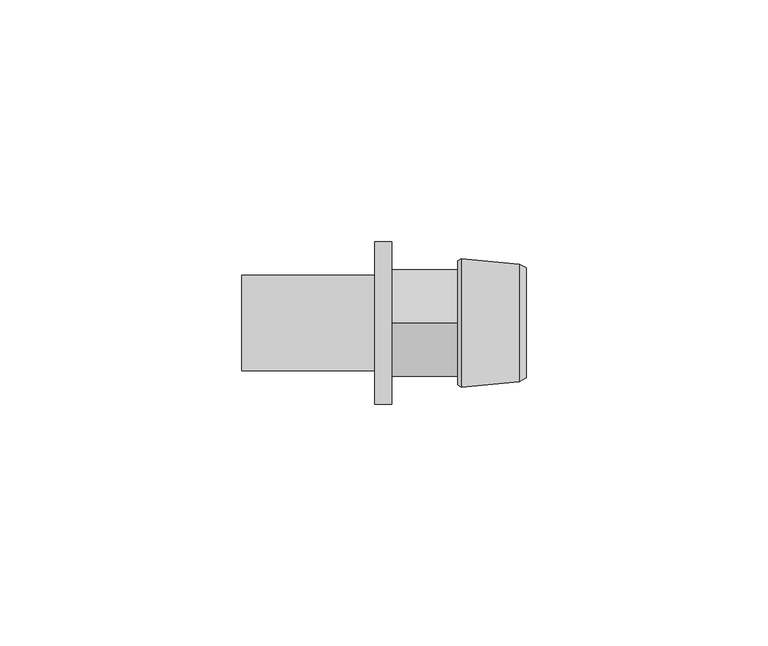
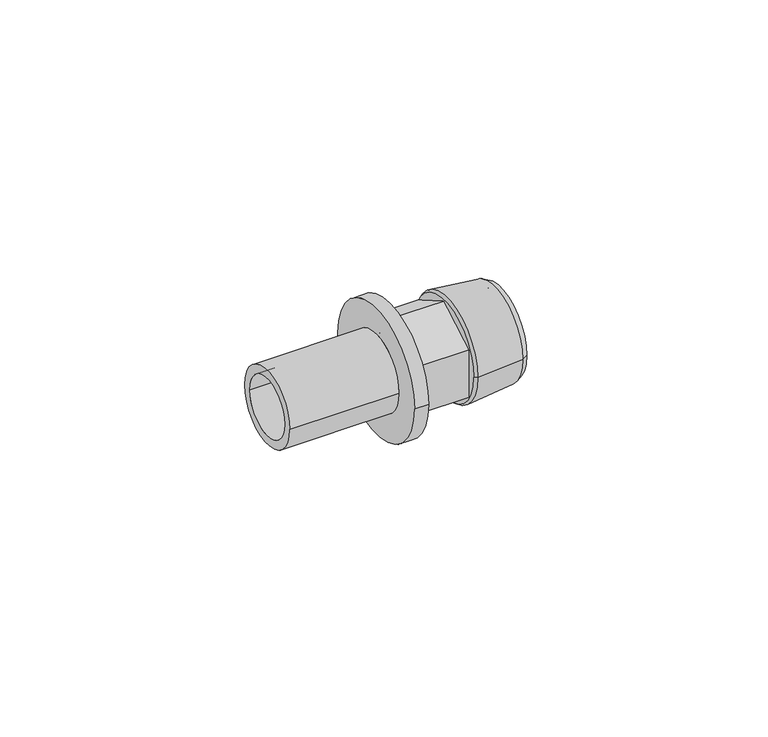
"""IFC4 building model written with IfcOpenShell, lengths in millimetres: pipe fitting geometry, RAUTITAN_Adapter_external_thread LX+G_LX : RTI A external LX+G_LX DE."""

from ifc_helpers import new_model, si_unit, frame, origin, place, context, project, spatial, polyline, circle_curve, outline, extrude, source, transform, mapped, element, save
from ifc_brep_helpers import plane_surface, cylinder_surface, revolved_surface, advanced_brep


def pipe_fitting_b5638b35(model_context):
    return source(origin(), model_context, "Body", "SolidModel", [
        advanced_brep(
        [(-3.54, 9.875, 0.0), (-3.54, -9.875, 0.0), (-31.03, -9.875, 0.0), (-31.03, 9.875, 0.0), (0.0, 16.8, 0.0), (0.0, -16.8, 0.0), (-3.54, -16.8, 0.0), (-3.54, 16.8, 0.0), (-31.03, 7.6, 0.0), (-31.03, -7.6, 0.0), (0.0, -7.6, 0.0), (0.0, 7.6, 0.0)],
        [
            (0, 1, circle_curve(frame((-3.54, 0.0, 0.0), z_axis=(-1.0, 0.0, 0.0), x_axis=(0.0, -1.0, 0.0)), 9.875)),
            (1, 2),
            (2, 3, circle_curve(frame((-31.03, 0.0, 0.0), z_axis=(1.0, 0.0, 0.0), x_axis=(0.0, -1.0, 0.0)), 9.875)),
            (3, 0),
            (4, 5, circle_curve(frame((0.0, 0.0, 0.0), z_axis=(-1.0, 0.0, 0.0), x_axis=(0.0, -1.0, 0.0)), 16.8)),
            (5, 6),
            (6, 7, circle_curve(frame((-3.54, 0.0, 0.0), z_axis=(1.0, 0.0, 0.0), x_axis=(0.0, -1.0, 0.0)), 16.8)),
            (7, 4),
            (8, 9, circle_curve(frame((-31.03, 0.0, 0.0), z_axis=(-1.0, 0.0, 0.0), x_axis=(0.0, -1.0, 0.0)), 7.6)),
            (9, 10),
            (10, 11, circle_curve(frame((0.0, 0.0, 0.0), z_axis=(1.0, 0.0, 0.0), x_axis=(0.0, -1.0, 0.0)), 7.6)),
            (11, 8),
            (2, 3, circle_curve(frame((-31.03, 0.0, 0.0), z_axis=(-1.0, 0.0, 0.0), x_axis=(0.0, 1.0, 0.0)), 9.875)),
            (8, 9, circle_curve(frame((-31.03, 0.0, 0.0), z_axis=(1.0, 0.0, 0.0), x_axis=(0.0, 1.0, 0.0)), 7.6)),
            (1, 0, circle_curve(frame((-3.54, 0.0, 0.0), z_axis=(-1.0, 0.0, 0.0), x_axis=(0.0, 1.0, 0.0)), 9.875)),
            (6, 7, circle_curve(frame((-3.54, 0.0, 0.0), z_axis=(-1.0, 0.0, 0.0), x_axis=(0.0, 1.0, 0.0)), 16.8)),
            (5, 4, circle_curve(frame((0.0, 0.0, 0.0), z_axis=(-1.0, 0.0, 0.0), x_axis=(0.0, 1.0, 0.0)), 16.8)),
            (10, 11, circle_curve(frame((0.0, 0.0, 0.0), z_axis=(-1.0, 0.0, 0.0), x_axis=(0.0, 1.0, 0.0)), 7.6)),
        ],
        [
            cylinder_surface(frame((0.0, 0.0, 0.0), z_axis=(1.0, 0.0, 0.0), x_axis=(0.0, -1.0, 0.0)), 9.875),
            cylinder_surface(frame((0.0, 0.0, 0.0), z_axis=(1.0, 0.0, 0.0), x_axis=(0.0, -1.0, 0.0)), 16.8),
            revolved_surface(polyline([(0.0, -7.6, 0.0), (-31.03, -7.6, 0.0)]), (0.0, 0.0, 0.0), (1.0, 0.0, 0.0)),
            plane_surface(frame((-31.03, 0.0, 0.0), z_axis=(-1.0, 0.0, 0.0), x_axis=(0.0, 1.0, 0.0))),
            cylinder_surface(frame((0.0, 0.0, 0.0), z_axis=(1.0, 0.0, 0.0), x_axis=(0.0, 1.0, 0.0)), 9.875),
            plane_surface(frame((-3.54, 0.0, 0.0), z_axis=(-1.0, 0.0, 0.0), x_axis=(0.0, 1.0, 0.0))),
            cylinder_surface(frame((0.0, 0.0, 0.0), z_axis=(1.0, 0.0, 0.0), x_axis=(0.0, 1.0, 0.0)), 16.8),
            plane_surface(frame((0.0, 0.0, 0.0), z_axis=(1.0, 0.0, 0.0), x_axis=(0.0, 1.0, 0.0))),
            revolved_surface(polyline([(0.0, 7.6, 0.0), (-31.03, 7.6, 0.0)]), (0.0, 0.0, 0.0), (1.0, 0.0, 0.0)),
        ],
        [
            (0, [[1, 2, 3, 4]]),
            (1, [[5, 6, 7, 8]]),
            (2, [[9, 10, 11, 12]]),
            (3, [[13, -3], [14, -9]]),
            (4, [[15, -4, -13, -2]]),
            (5, [[16, -7], [-15, -1]]),
            (6, [[17, -8, -16, -6]]),
            (7, [[-17, -5], [18, -11]]),
            (8, [[-14, -12, -18, -10]]),
        ],
    ),
        advanced_brep(
        [(14.7832803, 9.5, 0.0), (14.7832803, -9.5, 0.0), (27.88, -9.5, 0.0), (27.88, 9.5, 0.0), (13.68, 8.3967197, 0.0), (13.68, -8.3967197, 0.0), (14.4206902, 13.29, 0.0), (14.4206902, -13.29, 0.0), (13.68, -12.85, 0.0), (13.68, 12.85, 0.0), (26.3800007, 12.16, 0.0), (26.3800007, -12.16, 0.0), (27.88, 11.375, 0.0), (27.88, -11.375, 0.0)],
        [
            (0, 1, circle_curve(frame((14.7832803, 0.0, 0.0), z_axis=(-1.0, 0.0, 0.0), x_axis=(0.0, -1.0, 0.0)), 9.5)),
            (1, 2),
            (2, 3, circle_curve(frame((27.88, 0.0, 0.0), z_axis=(1.0, 0.0, 0.0), x_axis=(0.0, -1.0, 0.0)), 9.5)),
            (3, 0),
            (4, 5, circle_curve(frame((13.68, 0.0, 0.0), z_axis=(-1.0, 0.0, 0.0), x_axis=(0.0, -1.0, 0.0)), 8.3967197)),
            (5, 1),
            (0, 4),
            (6, 7, circle_curve(frame((14.4206902, 0.0, 0.0), z_axis=(-1.0, 0.0, 0.0), x_axis=(0.0, -1.0, 0.0)), 13.29)),
            (7, 8),
            (8, 9, circle_curve(frame((13.68, 0.0, 0.0), z_axis=(1.0, 0.0, 0.0), x_axis=(0.0, -1.0, 0.0)), 12.85)),
            (9, 6),
            (10, 11, circle_curve(frame((26.3800007, 0.0, 0.0), z_axis=(-1.0, 0.0, 0.0), x_axis=(0.0, -1.0, 0.0)), 12.16)),
            (11, 7),
            (6, 10),
            (12, 13, circle_curve(frame((27.88, 0.0, 0.0), z_axis=(-1.0, 0.0, 0.0), x_axis=(0.0, -1.0, 0.0)), 11.375)),
            (13, 11),
            (10, 12),
            (1, 0, circle_curve(frame((14.7832803, 0.0, 0.0), z_axis=(-1.0, 0.0, 0.0), x_axis=(0.0, 1.0, 0.0)), 9.5)),
            (3, 2, circle_curve(frame((27.88, 0.0, 0.0), z_axis=(1.0, 0.0, 0.0), x_axis=(0.0, 1.0, 0.0)), 9.5)),
            (5, 4, circle_curve(frame((13.68, 0.0, 0.0), z_axis=(-1.0, 0.0, 0.0), x_axis=(0.0, 1.0, 0.0)), 8.3967197)),
            (8, 9, circle_curve(frame((13.68, 0.0, 0.0), z_axis=(-1.0, 0.0, 0.0), x_axis=(0.0, 1.0, 0.0)), 12.85)),
            (7, 6, circle_curve(frame((14.4206902, 0.0, 0.0), z_axis=(-1.0, 0.0, 0.0), x_axis=(0.0, 1.0, 0.0)), 13.29)),
            (11, 10, circle_curve(frame((26.3800007, 0.0, 0.0), z_axis=(-1.0, 0.0, 0.0), x_axis=(0.0, 1.0, 0.0)), 12.16)),
            (13, 12, circle_curve(frame((27.88, 0.0, 0.0), z_axis=(-1.0, 0.0, 0.0), x_axis=(0.0, 1.0, 0.0)), 11.375)),
        ],
        [
            revolved_surface(polyline([(27.88, -9.5, 0.0), (14.7832803, -9.5, 0.0)]), (0.0, 0.0, 0.0), (1.0, 0.0, 0.0)),
            revolved_surface(polyline([(14.7832803, -9.5, 0.0), (13.68, -8.3967197, 0.0)]), (0.0, 0.0, 0.0), (1.0, 0.0, 0.0)),
            revolved_surface(polyline([(13.68, -12.85, 0.0), (14.4206902, -13.29, 0.0)]), (0.0, 0.0, 0.0), (1.0, 0.0, 0.0)),
            revolved_surface(polyline([(14.4206902, -13.29, 0.0), (26.3800007, -12.16, 0.0)]), (0.0, 0.0, 0.0), (1.0, 0.0, 0.0)),
            revolved_surface(polyline([(26.3800007, -12.16, 0.0), (27.88, -11.375, 0.0)]), (0.0, 0.0, 0.0), (1.0, 0.0, 0.0)),
            revolved_surface(polyline([(27.88, 9.5, 0.0), (14.7832803, 9.5, 0.0)]), (0.0, 0.0, 0.0), (1.0, 0.0, 0.0)),
            revolved_surface(polyline([(14.7832803, 9.5, 0.0), (13.68, 8.3967197, 0.0)]), (0.0, 0.0, 0.0), (1.0, 0.0, 0.0)),
            plane_surface(frame((13.68, 0.0, 0.0), z_axis=(-1.0, 0.0, 0.0), x_axis=(0.0, 1.0, 0.0))),
            revolved_surface(polyline([(13.68, 12.85, 0.0), (14.4206902, 13.29, 0.0)]), (0.0, 0.0, 0.0), (1.0, 0.0, 0.0)),
            revolved_surface(polyline([(14.4206902, 13.29, 0.0), (26.3800007, 12.16, 0.0)]), (0.0, 0.0, 0.0), (1.0, 0.0, 0.0)),
            revolved_surface(polyline([(26.3800007, 12.16, 0.0), (27.88, 11.375, 0.0)]), (0.0, 0.0, 0.0), (1.0, 0.0, 0.0)),
            plane_surface(frame((27.88, 0.0, 0.0), z_axis=(1.0, 0.0, 0.0), x_axis=(0.0, 1.0, 0.0))),
        ],
        [
            (0, [[1, 2, 3, 4]]),
            (1, [[5, 6, -1, 7]]),
            (2, [[8, 9, 10, 11]]),
            (3, [[12, 13, -8, 14]]),
            (4, [[15, 16, -12, 17]]),
            (5, [[18, -4, 19, -2]]),
            (6, [[20, -7, -18, -6]]),
            (7, [[21, -10], [-20, -5]]),
            (8, [[22, -11, -21, -9]]),
            (9, [[23, -14, -22, -13]]),
            (10, [[24, -17, -23, -16]]),
            (11, [[-24, -15], [-19, -3]]),
        ],
    ),
        extrude(outline(polyline([(-11.0, 6.350853), (0.0, 12.7017059), (11.0, 6.350853), (11.0, -6.350853), (0.0, -12.7017059), (-11.0, -6.350853), (-11.0, 6.350853)])), frame((0.0, 0.0, 0.0), z_axis=(1.0, 0.0, 0.0), x_axis=(0.0, 1.0, 0.0)), (0.0, 0.0, 1.0), 13.68),
    ])


if __name__ == "__main__":
    model = new_model("IFC4")
    model_context = context("Model", 3, world=origin())
    ifc_project = project(units=[si_unit("LENGTHUNIT", "METRE", prefix="MILLI")], contexts=[model_context])
    site = spatial("IfcSite", under=ifc_project)
    building = spatial("IfcBuilding", under=site)
    placement = place(None, origin())
    pipe_fitting_shape = pipe_fitting_b5638b35(model_context)
    element("IfcPipeFitting", 1, ObjectType="RAUTITAN_Adapter_external_thread LX+G_LX : RTI A external LX+G_LX DE", at=placement, inside=building, context=model_context, shape_type="MappedRepresentation", body=[
        mapped(pipe_fitting_shape, transform((0.0, 0.0, 0.0), x_axis=(1.0, 0.0, 0.0), y_axis=(0.0, 1.0, 0.0), z_axis=(0.0, 0.0, 1.0))),
    ])
    save(model, "model.ifc")
